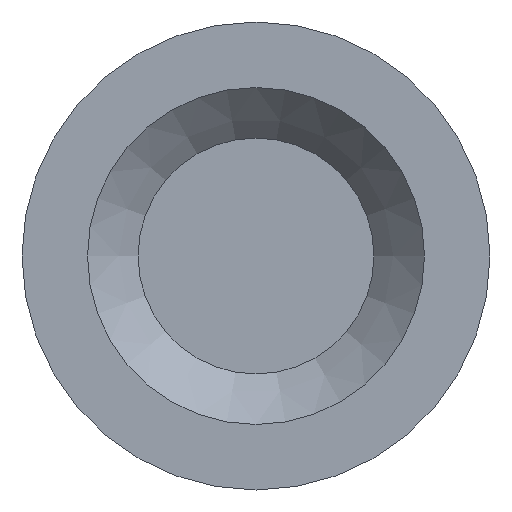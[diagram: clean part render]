
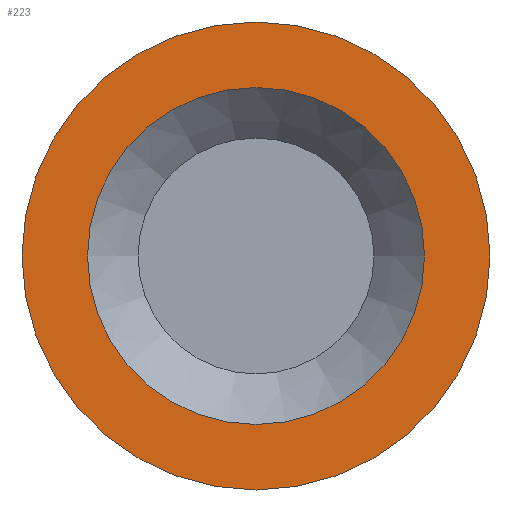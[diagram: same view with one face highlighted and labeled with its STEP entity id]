
A CAD part, left-side view. The second image highlights one B-rep face of the part: STEP entity #223.
In plain terms, the highlighted planar face has unit normal (-1, 0, 0).
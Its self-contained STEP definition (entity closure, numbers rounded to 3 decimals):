
#17=PLANE($,#257);
#35=FACE_BOUND($,#83,.T.);
#54=FACE_OUTER_BOUND($,#82,.T.);
#82=EDGE_LOOP($,(#182));
#83=EDGE_LOOP($,(#183));
#113=CIRCLE($,#256,1.143);
#114=CIRCLE($,#258,1.588);
#133=VERTEX_POINT($,#391);
#134=VERTEX_POINT($,#394);
#153=EDGE_CURVE($,#133,#133,#113,.T.);
#154=EDGE_CURVE($,#134,#134,#114,.T.);
#182=ORIENTED_EDGE($,*,*,#154,.F.);
#183=ORIENTED_EDGE($,*,*,#153,.T.);
#223=ADVANCED_FACE($,(#54,#35),#17,.T.);
#256=AXIS2_PLACEMENT_3D($,#392,#317,#318);
#257=AXIS2_PLACEMENT_3D($,#393,#319,#320);
#258=AXIS2_PLACEMENT_3D($,#395,#321,#322);
#317=DIRECTION('center_axis',(1.,0.,0.));
#318=DIRECTION('ref_axis',(0.,1.,0.));
#319=DIRECTION('center_axis',(-1.,0.,0.));
#320=DIRECTION('ref_axis',(0.,0.,1.));
#321=DIRECTION('center_axis',(1.,0.,0.));
#322=DIRECTION('ref_axis',(0.,1.,0.));
#391=CARTESIAN_POINT('',(7.135,1.143,0.));
#392=CARTESIAN_POINT('Origin',(7.135,0.,0.));
#393=CARTESIAN_POINT('Origin',(7.135,1.365,0.));
#394=CARTESIAN_POINT('',(7.135,1.588,0.));
#395=CARTESIAN_POINT('Origin',(7.135,0.,0.));
